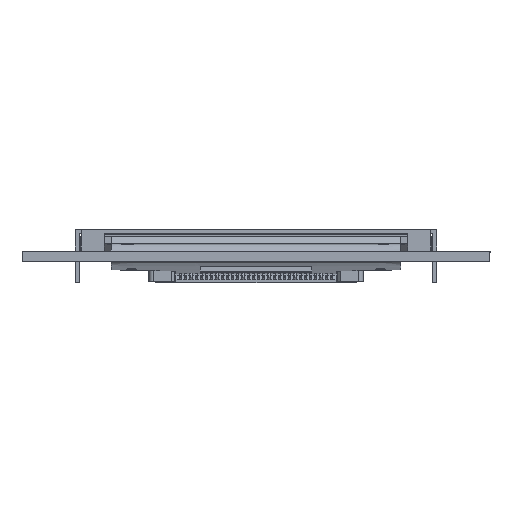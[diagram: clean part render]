
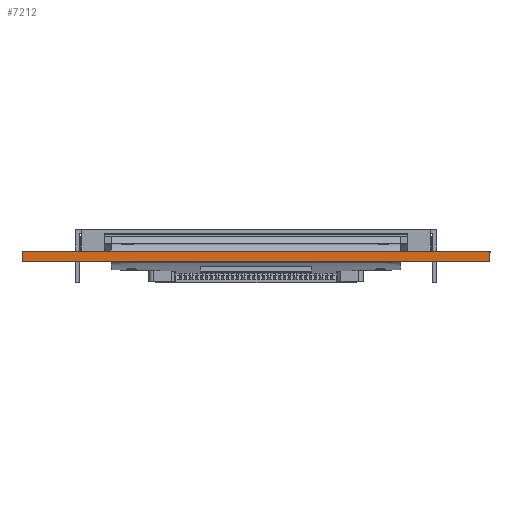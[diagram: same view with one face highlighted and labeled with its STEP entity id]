
A CAD part, top view. The second image highlights one B-rep face of the part: STEP entity #7212.
In plain terms, the highlighted planar face has unit normal (0, -0.001, 1).
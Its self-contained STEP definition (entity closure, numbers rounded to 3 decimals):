
#4878 = DIRECTION ( 'NONE',  ( 0., 1., 0. ) ) ;
#7212 = ADVANCED_FACE ( 'NONE', ( #103314 ), #83805, .T. ) ;
#11329 = ORIENTED_EDGE ( 'NONE', *, *, #109444, .F. ) ;
#13955 = VECTOR ( 'NONE', #24627, 1000. ) ;
#16647 = EDGE_LOOP ( 'NONE', ( #83421, #108929, #11329, #125720 ) ) ;
#19243 = EDGE_CURVE ( 'NONE', #43874, #91330, #27434, .T. ) ;
#23085 = DIRECTION ( 'NONE',  ( 1., 0., 0. ) ) ;
#24627 = DIRECTION ( 'NONE',  ( 1., 0., 0. ) ) ;
#25050 = CARTESIAN_POINT ( 'NONE',  ( 0., 1., 26. ) ) ;
#27434 = LINE ( 'NONE', #115023, #58410 ) ;
#35911 = DIRECTION ( 'NONE',  ( 0., -1., 0. ) ) ;
#37422 = VECTOR ( 'NONE', #23085, 1000. ) ;
#40452 = CARTESIAN_POINT ( 'NONE',  ( -22.5, 0., 26. ) ) ;
#41628 = VECTOR ( 'NONE', #35911, 1000. ) ;
#43874 = VERTEX_POINT ( 'NONE', #40452 ) ;
#53545 = DIRECTION ( 'NONE',  ( 0., 0., 1. ) ) ;
#55353 = CARTESIAN_POINT ( 'NONE',  ( 22.5, 0., 26. ) ) ;
#58410 = VECTOR ( 'NONE', #4878, 1000. ) ;
#61921 = LINE ( 'NONE', #25050, #13955 ) ;
#68739 = AXIS2_PLACEMENT_3D ( 'NONE', #82506, #53545, #102798 ) ;
#69449 = CARTESIAN_POINT ( 'NONE',  ( 22.5, 0., 26. ) ) ;
#71961 = EDGE_CURVE ( 'NONE', #43874, #127979, #89991, .T. ) ;
#73192 = VERTEX_POINT ( 'NONE', #95159 ) ;
#82506 = CARTESIAN_POINT ( 'NONE',  ( -22.5, 0., 26. ) ) ;
#83080 = CARTESIAN_POINT ( 'NONE',  ( -22.5, 0., 26. ) ) ;
#83421 = ORIENTED_EDGE ( 'NONE', *, *, #19243, .F. ) ;
#83805 = PLANE ( 'NONE',  #68739 ) ;
#88007 = LINE ( 'NONE', #55353, #41628 ) ;
#89991 = LINE ( 'NONE', #83080, #37422 ) ;
#91330 = VERTEX_POINT ( 'NONE', #122287 ) ;
#95159 = CARTESIAN_POINT ( 'NONE',  ( 22.5, 1., 26. ) ) ;
#97814 = EDGE_CURVE ( 'NONE', #91330, #73192, #61921, .T. ) ;
#102798 = DIRECTION ( 'NONE',  ( 1., 0., 0. ) ) ;
#103314 = FACE_OUTER_BOUND ( 'NONE', #16647, .T. ) ;
#108929 = ORIENTED_EDGE ( 'NONE', *, *, #71961, .T. ) ;
#109444 = EDGE_CURVE ( 'NONE', #73192, #127979, #88007, .T. ) ;
#115023 = CARTESIAN_POINT ( 'NONE',  ( -22.5, 0., 26. ) ) ;
#122287 = CARTESIAN_POINT ( 'NONE',  ( -22.5, 1., 26. ) ) ;
#125720 = ORIENTED_EDGE ( 'NONE', *, *, #97814, .F. ) ;
#127979 = VERTEX_POINT ( 'NONE', #69449 ) ;
